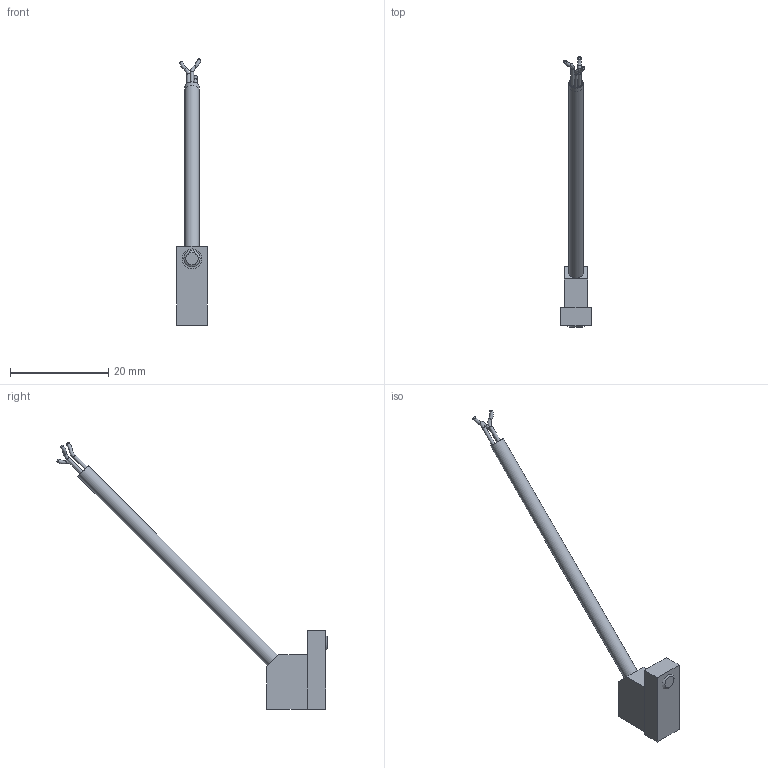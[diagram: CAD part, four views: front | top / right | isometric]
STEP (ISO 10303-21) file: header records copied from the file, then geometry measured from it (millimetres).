
FILE_DESCRIPTION(/* description */ (''),/* implementation_level */ '2;1');
FILE_NAME(/* name */ '\\dc01\daten\CAD\Standard\Daten\3D-Datenbank\RSGU\4 - 3D-CAD-Daten\RSGU01.stp',/* time_stamp */ '2020-06-04T14:17:39+02:00',/* author */ ('hcanti'),/* organization */ (''),/* preprocessor_version */ 'ST-DEVELOPER v17',/* originating_system */ 'Autodesk Inventor 2018',/* authorisation */ '');
FILE_SCHEMA (('AUTOMOTIVE_DESIGN { 1 0 10303 214 3 1 1 }'));
Length unit declared in the file: millimetre
Products named in the file (4): RSGU01; G-RSGU01; RSGU Kabel; DIN 913 - M4 x 4
Assembly tree (3 placements, depth 2):
  RSGU01
    G-RSGU01
    RSGU Kabel
    DIN 913 - M4 x 4
Bounding box: 6.3 x 54.89 x 54.14 mm (x, y, z)
Volume: 1197.5 mm3; surface area: 1305.5 mm2
Topology: 6 solids, 6 shells, 47 faces, 105 edges, 71 vertices
Faces by surface type: plane 28, cylinder 7, torus 6, bspline 3, cone 3
Full cylindrical faces by diameter (mm): 0.7 x3, 2.7 x1, 3 x1, 3.3 x1, 4 x1
Entity records: 1725 total; most frequent: CARTESIAN_POINT 485, DIRECTION 227, ORIENTED_EDGE 208, EDGE_CURVE 104, AXIS2_PLACEMENT_3D 89, VERTEX_POINT 71, EDGE_LOOP 51, LINE 49
